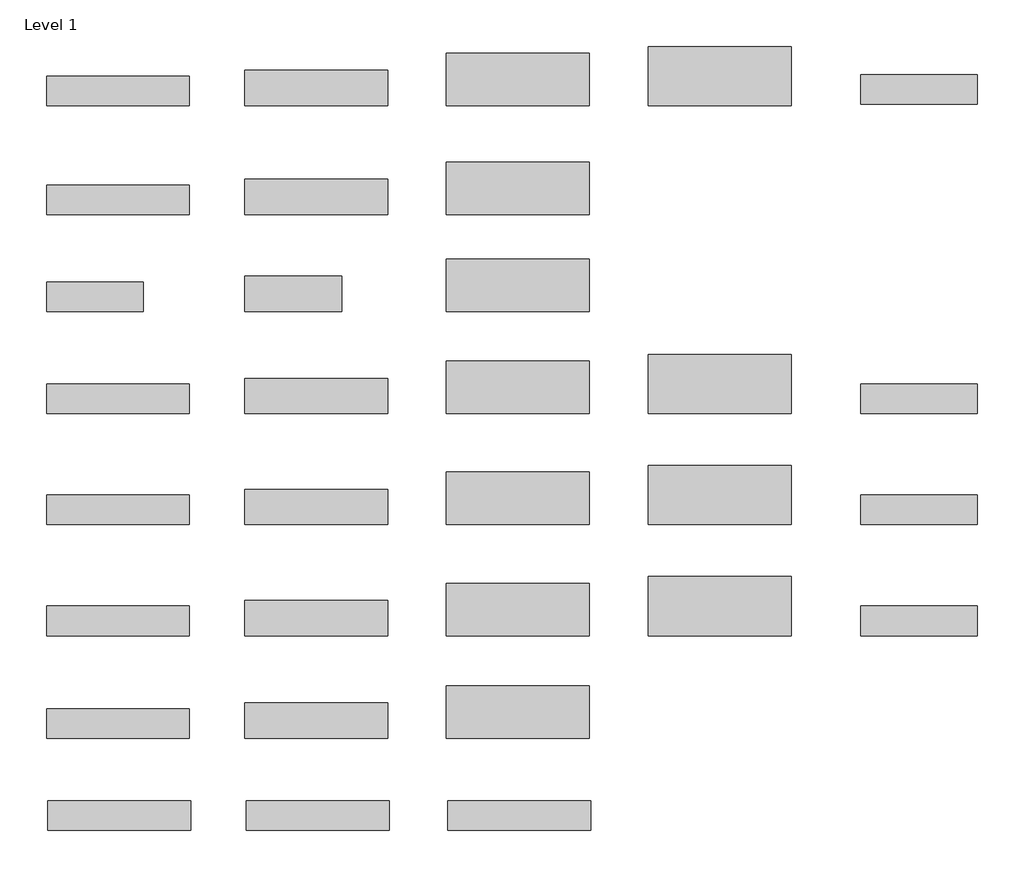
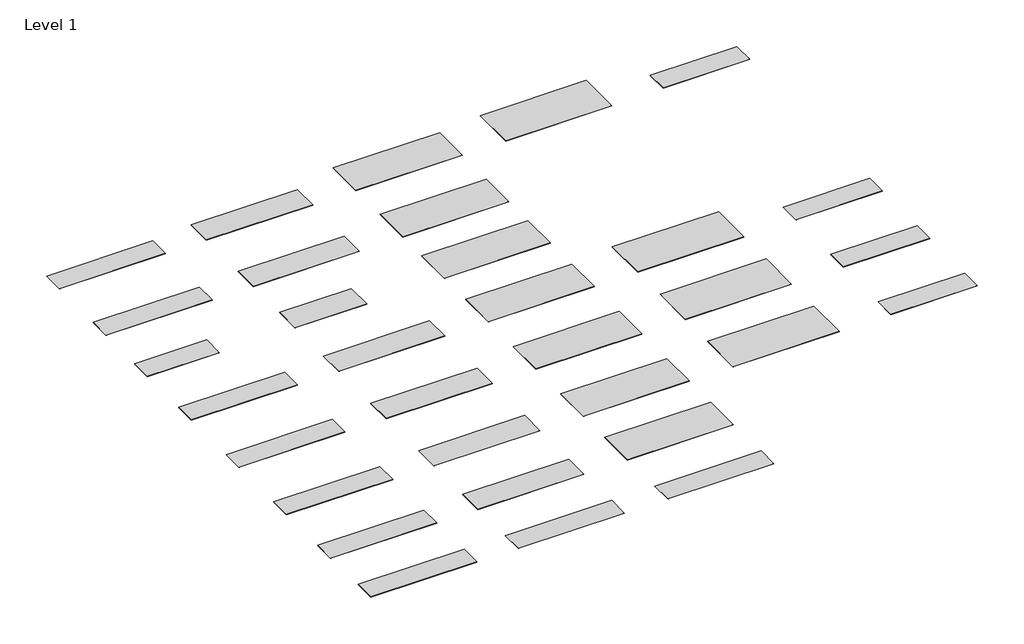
# One storey: 32 proxies.
"""IFC4 building model written with IfcOpenShell, lengths in millimetres."""

from ifc_helpers import new_model, si_unit, origin, place, context, project, spatial, transform, mapped, element, save
from components import g031_black_granite_12mm_760x3680mm_7f56e2ab, g031_black_granite_12mm_1520x3680mm_bc4f7f2a, g031_black_granite_12mm_1350x3680mm_c2ce3097, g031_black_granite_12mm_910x3680mm_ebb0e17e, g031_black_granite_20mm_760x3000mm_a6e596b7, g034_arctic_granite_6mm_760x2490mm_c0a7b58a, g034_arctic_granite_6mm_910x2490mm_29e5721c

model = new_model("IFC4")

# Units and contexts
model_context = context("Model", 3, world=origin())
ifc_project = project(units=[si_unit("LENGTHUNIT", "METRE", prefix="MILLI")], contexts=[model_context])

# Site, building, storey
site = spatial("IfcSite", under=ifc_project)
building = spatial("IfcBuilding", under=site)
storey = spatial("IfcBuildingStorey", under=building, Name="Level 1", Elevation=0.0)

# Proxies
placement = place(None, origin())
g031_black_granite_12mm_760x3680mm_shape = g031_black_granite_12mm_760x3680mm_7f56e2ab(model_context)
element("IfcBuildingElementProxy", 1, Name="Kitchen_Counter-Tops_Indoor-Materials_HIMACS_Granite : G100_Peanut-Butter_12mm_760x3680mm", ObjectType="Kitchen_Counter-Tops_Indoor-Materials_HIMACS_Granite : G100_Peanut-Butter_12mm_760x3680mm", at=placement, inside=storey, context=model_context, shape_type="MappedRepresentation", body=[
    mapped(g031_black_granite_12mm_760x3680mm_shape, transform((-20833.2587718, -3907.9928824, 0.0), x_axis=(1.0, 0.0, 0.0), y_axis=(0.0, 1.0, 0.0), z_axis=(0.0, 0.0, 1.0))),
])
element("IfcBuildingElementProxy", 2, Name="Kitchen_Counter-Tops_Indoor-Materials_HIMACS_Granite : G183_highland-Granite_12mm_760x3680mm", ObjectType="Kitchen_Counter-Tops_Indoor-Materials_HIMACS_Granite : G183_highland-Granite_12mm_760x3680mm", at=placement, inside=storey, context=model_context, shape_type="MappedRepresentation", body=[
    mapped(g031_black_granite_12mm_760x3680mm_shape, transform((-10505.8872948, -14638.6596387, 0.0), x_axis=(1.0, 0.0, 0.0), y_axis=(0.0, 1.0, 0.0), z_axis=(0.0, 0.0, 1.0))),
])
element("IfcBuildingElementProxy", 3, Name="Kitchen_Counter-Tops_Indoor-Materials_HIMACS_Granite : G181_Windy_Hill-Granite_12mm_760x3680mm", ObjectType="Kitchen_Counter-Tops_Indoor-Materials_HIMACS_Granite : G181_Windy_Hill-Granite_12mm_760x3680mm", at=placement, inside=storey, context=model_context, shape_type="MappedRepresentation", body=[
    mapped(g031_black_granite_12mm_760x3680mm_shape, transform((-15693.1394565, -14638.6596387, 0.0), x_axis=(1.0, 0.0, 0.0), y_axis=(0.0, 1.0, 0.0), z_axis=(0.0, 0.0, 1.0))),
])
g031_black_granite_12mm_1520x3680mm_shape = g031_black_granite_12mm_1520x3680mm_bc4f7f2a(model_context)
element("IfcBuildingElementProxy", 4, Name="Kitchen_Counter-Tops_Indoor-Materials_HIMACS_Granite : G100_Peanut-Butter_12mm_1520x3680mm", ObjectType="Kitchen_Counter-Tops_Indoor-Materials_HIMACS_Granite : G100_Peanut-Butter_12mm_1520x3680mm", at=placement, inside=storey, context=model_context, shape_type="MappedRepresentation", body=[
    mapped(g031_black_granite_12mm_1520x3680mm_shape, transform((-5345.0121896, -3527.9928824, 0.0), x_axis=(1.0, 0.0, 0.0), y_axis=(0.0, 1.0, 0.0), z_axis=(0.0, 0.0, 1.0))),
])
g031_black_granite_12mm_1350x3680mm_shape = g031_black_granite_12mm_1350x3680mm_c2ce3097(model_context)
element("IfcBuildingElementProxy", 5, Name="Kitchen_Counter-Tops_Indoor-Materials_HIMACS_Granite : G100_Peanut-Butter_12mm_1350x3680mm", ObjectType="Kitchen_Counter-Tops_Indoor-Materials_HIMACS_Granite : G100_Peanut-Butter_12mm_1350x3680mm", at=placement, inside=storey, context=model_context, shape_type="MappedRepresentation", body=[
    mapped(g031_black_granite_12mm_1350x3680mm_shape, transform((-10538.8244354, -3612.9928824, 0.0), x_axis=(1.0, 0.0, 0.0), y_axis=(0.0, 1.0, 0.0), z_axis=(0.0, 0.0, 1.0))),
])
g031_black_granite_12mm_910x3680mm_shape = g031_black_granite_12mm_910x3680mm_ebb0e17e(model_context)
element("IfcBuildingElementProxy", 6, Name="Kitchen_Counter-Tops_Indoor-Materials_HIMACS_Granite : G100_Peanut-Butter_12mm_910x3680mm", ObjectType="Kitchen_Counter-Tops_Indoor-Materials_HIMACS_Granite : G100_Peanut-Butter_12mm_910x3680mm", at=placement, inside=storey, context=model_context, shape_type="MappedRepresentation", body=[
    mapped(g031_black_granite_12mm_910x3680mm_shape, transform((-15726.0765971, -3832.9928824, 0.0), x_axis=(1.0, 0.0, 0.0), y_axis=(0.0, 1.0, 0.0), z_axis=(0.0, 0.0, 1.0))),
])
g031_black_granite_20mm_760x3000mm_shape = g031_black_granite_20mm_760x3000mm_a6e596b7(model_context)
element("IfcBuildingElementProxy", 7, Name="Kitchen_Counter-Tops_Indoor-Materials_HIMACS_Granite : G100_Peanut-Butter_20mm_760x3000mm", ObjectType="Kitchen_Counter-Tops_Indoor-Materials_HIMACS_Granite : G100_Peanut-Butter_20mm_760x3000mm", at=placement, inside=storey, context=model_context, shape_type="MappedRepresentation", body=[
    mapped(g031_black_granite_20mm_760x3000mm_shape, transform((-204.6610273, -3907.9928824, 0.0), x_axis=(1.0, 0.0, 0.0), y_axis=(0.0, 1.0, 0.0), z_axis=(0.0, 0.0, 1.0))),
])
element("IfcBuildingElementProxy", 8, Name="Kitchen_Counter-Tops_Indoor-Materials_HIMACS_Granite : G031_Black-Granite_12mm_1350x3680mm", ObjectType="Kitchen_Counter-Tops_Indoor-Materials_HIMACS_Granite : G031_Black-Granite_12mm_1350x3680mm", at=placement, inside=storey, context=model_context, shape_type="MappedRepresentation", body=[
    mapped(g031_black_granite_12mm_1350x3680mm_shape, transform((-10538.8244354, -9332.9928824, 0.0), x_axis=(1.0, 0.0, 0.0), y_axis=(0.0, 1.0, 0.0), z_axis=(0.0, 0.0, 1.0))),
])
element("IfcBuildingElementProxy", 9, Name="Kitchen_Counter-Tops_Indoor-Materials_HIMACS_Granite : G031_Black-Granite_12mm_1520x3680mm", ObjectType="Kitchen_Counter-Tops_Indoor-Materials_HIMACS_Granite : G031_Black-Granite_12mm_1520x3680mm", at=placement, inside=storey, context=model_context, shape_type="MappedRepresentation", body=[
    mapped(g031_black_granite_12mm_1520x3680mm_shape, transform((-5345.0121896, -9247.9928824, 0.0), x_axis=(1.0, 0.0, 0.0), y_axis=(0.0, 1.0, 0.0), z_axis=(0.0, 0.0, 1.0))),
])
element("IfcBuildingElementProxy", 10, Name="Kitchen_Counter-Tops_Indoor-Materials_HIMACS_Granite : G031_Black-Granite_12mm_760x3680mm", ObjectType="Kitchen_Counter-Tops_Indoor-Materials_HIMACS_Granite : G031_Black-Granite_12mm_760x3680mm", at=placement, inside=storey, context=model_context, shape_type="MappedRepresentation", body=[
    mapped(g031_black_granite_12mm_760x3680mm_shape, transform((-20833.2587718, -9627.9928824, 0.0), x_axis=(1.0, 0.0, 0.0), y_axis=(0.0, 1.0, 0.0), z_axis=(0.0, 0.0, 1.0))),
])
element("IfcBuildingElementProxy", 11, Name="Kitchen_Counter-Tops_Indoor-Materials_HIMACS_Granite : G031_Black-Granite_12mm_910x3680mm", ObjectType="Kitchen_Counter-Tops_Indoor-Materials_HIMACS_Granite : G031_Black-Granite_12mm_910x3680mm", at=placement, inside=storey, context=model_context, shape_type="MappedRepresentation", body=[
    mapped(g031_black_granite_12mm_910x3680mm_shape, transform((-15726.0765971, -9552.9928824, 0.0), x_axis=(1.0, 0.0, 0.0), y_axis=(0.0, 1.0, 0.0), z_axis=(0.0, 0.0, 1.0))),
])
element("IfcBuildingElementProxy", 12, Name="Kitchen_Counter-Tops_Indoor-Materials_HIMACS_Granite : G031_Black-Granite_20mm_760x3000mm", ObjectType="Kitchen_Counter-Tops_Indoor-Materials_HIMACS_Granite : G031_Black-Granite_20mm_760x3000mm", at=placement, inside=storey, context=model_context, shape_type="MappedRepresentation", body=[
    mapped(g031_black_granite_20mm_760x3000mm_shape, transform((-204.6610273, -9627.9928824, 0.0), x_axis=(1.0, 0.0, 0.0), y_axis=(0.0, 1.0, 0.0), z_axis=(0.0, 0.0, 1.0))),
])
element("IfcBuildingElementProxy", 13, Name="Kitchen_Counter-Tops_Indoor-Materials_HIMACS_Granite : G031_Black-Granite_9mm_1350x3680mm", ObjectType="Kitchen_Counter-Tops_Indoor-Materials_HIMACS_Granite : G031_Black-Granite_9mm_1350x3680mm", at=placement, inside=storey, context=model_context, shape_type="MappedRepresentation", body=[
    mapped(g031_black_granite_12mm_1350x3680mm_shape, transform((-10538.8244354, -11972.9928824, 0.0), x_axis=(1.0, 0.0, 0.0), y_axis=(0.0, 1.0, 0.0), z_axis=(0.0, 0.0, 1.0))),
])
element("IfcBuildingElementProxy", 14, Name="Kitchen_Counter-Tops_Indoor-Materials_HIMACS_Granite : G031_Black-Granite_9mm_760x3680mm", ObjectType="Kitchen_Counter-Tops_Indoor-Materials_HIMACS_Granite : G031_Black-Granite_9mm_760x3680mm", at=placement, inside=storey, context=model_context, shape_type="MappedRepresentation", body=[
    mapped(g031_black_granite_12mm_760x3680mm_shape, transform((-20833.2587718, -12267.9928824, 0.0), x_axis=(1.0, 0.0, 0.0), y_axis=(0.0, 1.0, 0.0), z_axis=(0.0, 0.0, 1.0))),
])
element("IfcBuildingElementProxy", 15, Name="Kitchen_Counter-Tops_Indoor-Materials_HIMACS_Granite : G031_Black-Granite_9mm_910x3680mm", ObjectType="Kitchen_Counter-Tops_Indoor-Materials_HIMACS_Granite : G031_Black-Granite_9mm_910x3680mm", at=placement, inside=storey, context=model_context, shape_type="MappedRepresentation", body=[
    mapped(g031_black_granite_12mm_910x3680mm_shape, transform((-15726.0765971, -12192.9928824, 0.0), x_axis=(1.0, 0.0, 0.0), y_axis=(0.0, 1.0, 0.0), z_axis=(0.0, 0.0, 1.0))),
])
element("IfcBuildingElementProxy", 16, Name="Kitchen_Counter-Tops_Indoor-Materials_HIMACS_Granite : G034_Arctic-Granite_12mm_1350x3680mm", ObjectType="Kitchen_Counter-Tops_Indoor-Materials_HIMACS_Granite : G034_Arctic-Granite_12mm_1350x3680mm", at=placement, inside=storey, context=model_context, shape_type="MappedRepresentation", body=[
    mapped(g031_black_granite_12mm_1350x3680mm_shape, transform((-10538.8244354, 4324.1966332, 0.0), x_axis=(1.0, 0.0, 0.0), y_axis=(0.0, 1.0, 0.0), z_axis=(0.0, 0.0, 1.0))),
])
element("IfcBuildingElementProxy", 17, Name="Kitchen_Counter-Tops_Indoor-Materials_HIMACS_Granite : G034_Arctic-Granite_12mm_1520x3680mm", ObjectType="Kitchen_Counter-Tops_Indoor-Materials_HIMACS_Granite : G034_Arctic-Granite_12mm_1520x3680mm", at=placement, inside=storey, context=model_context, shape_type="MappedRepresentation", body=[
    mapped(g031_black_granite_12mm_1520x3680mm_shape, transform((-5345.0121896, 4409.1966332, 0.0), x_axis=(1.0, 0.0, 0.0), y_axis=(0.0, 1.0, 0.0), z_axis=(0.0, 0.0, 1.0))),
])
element("IfcBuildingElementProxy", 18, Name="Kitchen_Counter-Tops_Indoor-Materials_HIMACS_Granite : G034_Arctic-Granite_12mm_760x3680mm", ObjectType="Kitchen_Counter-Tops_Indoor-Materials_HIMACS_Granite : G034_Arctic-Granite_12mm_760x3680mm", at=placement, inside=storey, context=model_context, shape_type="MappedRepresentation", body=[
    mapped(g031_black_granite_12mm_760x3680mm_shape, transform((-20833.2587718, 4029.1966332, 0.0), x_axis=(1.0, 0.0, 0.0), y_axis=(0.0, 1.0, 0.0), z_axis=(0.0, 0.0, 1.0))),
])
element("IfcBuildingElementProxy", 19, Name="Kitchen_Counter-Tops_Indoor-Materials_HIMACS_Granite : G034_Arctic-Granite_12mm_910x3680mm", ObjectType="Kitchen_Counter-Tops_Indoor-Materials_HIMACS_Granite : G034_Arctic-Granite_12mm_910x3680mm", at=placement, inside=storey, context=model_context, shape_type="MappedRepresentation", body=[
    mapped(g031_black_granite_12mm_910x3680mm_shape, transform((-15726.0765971, 4104.1966332, 0.0), x_axis=(1.0, 0.0, 0.0), y_axis=(0.0, 1.0, 0.0), z_axis=(0.0, 0.0, 1.0))),
])
element("IfcBuildingElementProxy", 20, Name="Kitchen_Counter-Tops_Indoor-Materials_HIMACS_Granite : G034_Arctic-Granite_20mm_760x3000mm", ObjectType="Kitchen_Counter-Tops_Indoor-Materials_HIMACS_Granite : G034_Arctic-Granite_20mm_760x3000mm", at=placement, inside=storey, context=model_context, shape_type="MappedRepresentation", body=[
    mapped(g031_black_granite_20mm_760x3000mm_shape, transform((-204.6610273, 4068.0926454, 0.0), x_axis=(1.0, 0.0, 0.0), y_axis=(0.0, 1.0, 0.0), z_axis=(0.0, 0.0, 1.0))),
])
element("IfcBuildingElementProxy", 21, Name="Kitchen_Counter-Tops_Indoor-Materials_HIMACS_Granite : G034_Arctic-Granite_6mm_1350x3680mm", ObjectType="Kitchen_Counter-Tops_Indoor-Materials_HIMACS_Granite : G034_Arctic-Granite_6mm_1350x3680mm", at=placement, inside=storey, context=model_context, shape_type="MappedRepresentation", body=[
    mapped(g031_black_granite_12mm_1350x3680mm_shape, transform((-10538.8244354, -981.184711, 0.0), x_axis=(1.0, 0.0, 0.0), y_axis=(0.0, 1.0, 0.0), z_axis=(0.0, 0.0, 1.0))),
])
g034_arctic_granite_6mm_760x2490mm_shape = g034_arctic_granite_6mm_760x2490mm_c0a7b58a(model_context)
element("IfcBuildingElementProxy", 22, Name="Kitchen_Counter-Tops_Indoor-Materials_HIMACS_Granite : G034_Arctic-Granite_6mm_760x2490mm", ObjectType="Kitchen_Counter-Tops_Indoor-Materials_HIMACS_Granite : G034_Arctic-Granite_6mm_760x2490mm", at=placement, inside=storey, context=model_context, shape_type="MappedRepresentation", body=[
    mapped(g034_arctic_granite_6mm_760x2490mm_shape, transform((-21428.2587718, -1276.184711, 0.0), x_axis=(1.0, 0.0, 0.0), y_axis=(0.0, 1.0, 0.0), z_axis=(0.0, 0.0, 1.0))),
])
g034_arctic_granite_6mm_910x2490mm_shape = g034_arctic_granite_6mm_910x2490mm_29e5721c(model_context)
element("IfcBuildingElementProxy", 23, Name="Kitchen_Counter-Tops_Indoor-Materials_HIMACS_Granite : G034_Arctic-Granite_6mm_910x2490mm", ObjectType="Kitchen_Counter-Tops_Indoor-Materials_HIMACS_Granite : G034_Arctic-Granite_6mm_910x2490mm", at=placement, inside=storey, context=model_context, shape_type="MappedRepresentation", body=[
    mapped(g034_arctic_granite_6mm_910x2490mm_shape, transform((-16321.0765971, -1201.184711, 0.0), x_axis=(1.0, 0.0, 0.0), y_axis=(0.0, 1.0, 0.0), z_axis=(0.0, 0.0, 1.0))),
])
element("IfcBuildingElementProxy", 24, Name="Kitchen_Counter-Tops_Indoor-Materials_HIMACS_Granite : G034_Arctic-Granite_9mm_1350x3680mm", ObjectType="Kitchen_Counter-Tops_Indoor-Materials_HIMACS_Granite : G034_Arctic-Granite_9mm_1350x3680mm", at=placement, inside=storey, context=model_context, shape_type="MappedRepresentation", body=[
    mapped(g031_black_granite_12mm_1350x3680mm_shape, transform((-10538.8244354, 1515.9496118, 0.0), x_axis=(1.0, 0.0, 0.0), y_axis=(0.0, 1.0, 0.0), z_axis=(0.0, 0.0, 1.0))),
])
element("IfcBuildingElementProxy", 25, Name="Kitchen_Counter-Tops_Indoor-Materials_HIMACS_Granite : G034_Arctic-Granite_9mm_760x3680mm", ObjectType="Kitchen_Counter-Tops_Indoor-Materials_HIMACS_Granite : G034_Arctic-Granite_9mm_760x3680mm", at=placement, inside=storey, context=model_context, shape_type="MappedRepresentation", body=[
    mapped(g031_black_granite_12mm_760x3680mm_shape, transform((-20833.2587718, 1220.9496118, 0.0), x_axis=(1.0, 0.0, 0.0), y_axis=(0.0, 1.0, 0.0), z_axis=(0.0, 0.0, 1.0))),
])
element("IfcBuildingElementProxy", 26, Name="Kitchen_Counter-Tops_Indoor-Materials_HIMACS_Granite : G034_Arctic-Granite_9mm_910x3680mm", ObjectType="Kitchen_Counter-Tops_Indoor-Materials_HIMACS_Granite : G034_Arctic-Granite_9mm_910x3680mm", at=placement, inside=storey, context=model_context, shape_type="MappedRepresentation", body=[
    mapped(g031_black_granite_12mm_910x3680mm_shape, transform((-15726.0765971, 1295.9496118, 0.0), x_axis=(1.0, 0.0, 0.0), y_axis=(0.0, 1.0, 0.0), z_axis=(0.0, 0.0, 1.0))),
])
element("IfcBuildingElementProxy", 27, Name="Kitchen_Counter-Tops_Indoor-Materials_HIMACS_Granite : G074_Mocha-Granite_12mm_1350x3680mm", ObjectType="Kitchen_Counter-Tops_Indoor-Materials_HIMACS_Granite : G074_Mocha-Granite_12mm_1350x3680mm", at=placement, inside=storey, context=model_context, shape_type="MappedRepresentation", body=[
    mapped(g031_black_granite_12mm_1350x3680mm_shape, transform((-10538.8244354, -6472.9928824, 0.0), x_axis=(1.0, 0.0, 0.0), y_axis=(0.0, 1.0, 0.0), z_axis=(0.0, 0.0, 1.0))),
])
element("IfcBuildingElementProxy", 28, Name="Kitchen_Counter-Tops_Indoor-Materials_HIMACS_Granite : G074_Mocha-Granite_12mm_1520x3680mm", ObjectType="Kitchen_Counter-Tops_Indoor-Materials_HIMACS_Granite : G074_Mocha-Granite_12mm_1520x3680mm", at=placement, inside=storey, context=model_context, shape_type="MappedRepresentation", body=[
    mapped(g031_black_granite_12mm_1520x3680mm_shape, transform((-5345.0121896, -6387.9928824, 0.0), x_axis=(1.0, 0.0, 0.0), y_axis=(0.0, 1.0, 0.0), z_axis=(0.0, 0.0, 1.0))),
])
element("IfcBuildingElementProxy", 29, Name="Kitchen_Counter-Tops_Indoor-Materials_HIMACS_Granite : G074_Mocha-Granite_12mm_760x3680mm", ObjectType="Kitchen_Counter-Tops_Indoor-Materials_HIMACS_Granite : G074_Mocha-Granite_12mm_760x3680mm", at=placement, inside=storey, context=model_context, shape_type="MappedRepresentation", body=[
    mapped(g031_black_granite_12mm_760x3680mm_shape, transform((-20833.2587718, -6767.9928824, 0.0), x_axis=(1.0, 0.0, 0.0), y_axis=(0.0, 1.0, 0.0), z_axis=(0.0, 0.0, 1.0))),
])
element("IfcBuildingElementProxy", 30, Name="Kitchen_Counter-Tops_Indoor-Materials_HIMACS_Granite : G074_Mocha-Granite_12mm_910x3680mm", ObjectType="Kitchen_Counter-Tops_Indoor-Materials_HIMACS_Granite : G074_Mocha-Granite_12mm_910x3680mm", at=placement, inside=storey, context=model_context, shape_type="MappedRepresentation", body=[
    mapped(g031_black_granite_12mm_910x3680mm_shape, transform((-15726.0765971, -6692.9928824, 0.0), x_axis=(1.0, 0.0, 0.0), y_axis=(0.0, 1.0, 0.0), z_axis=(0.0, 0.0, 1.0))),
])
element("IfcBuildingElementProxy", 31, Name="Kitchen_Counter-Tops_Indoor-Materials_HIMACS_Granite : G074_Mocha-Granite_20mm_760x3000mm", ObjectType="Kitchen_Counter-Tops_Indoor-Materials_HIMACS_Granite : G074_Mocha-Granite_20mm_760x3000mm", at=placement, inside=storey, context=model_context, shape_type="MappedRepresentation", body=[
    mapped(g031_black_granite_20mm_760x3000mm_shape, transform((-204.6610273, -6767.9928824, 0.0), x_axis=(1.0, 0.0, 0.0), y_axis=(0.0, 1.0, 0.0), z_axis=(0.0, 0.0, 1.0))),
])
element("IfcBuildingElementProxy", 32, Name="Kitchen_Counter-Tops_Indoor-Materials_HIMACS_Granite : G180_Cotton_Field-Granite_12mm_760x3680mm", ObjectType="Kitchen_Counter-Tops_Indoor-Materials_HIMACS_Granite : G180_Cotton_Field-Granite_12mm_760x3680mm", at=placement, inside=storey, context=model_context, shape_type="MappedRepresentation", body=[
    mapped(g031_black_granite_12mm_760x3680mm_shape, transform((-20800.3216312, -14638.6596387, 0.0), x_axis=(1.0, 0.0, 0.0), y_axis=(0.0, 1.0, 0.0), z_axis=(0.0, 0.0, 1.0))),
])

save(model, "model.ifc")
